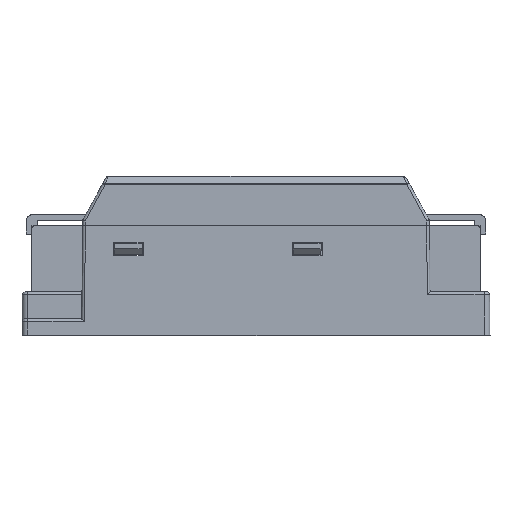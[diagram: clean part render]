
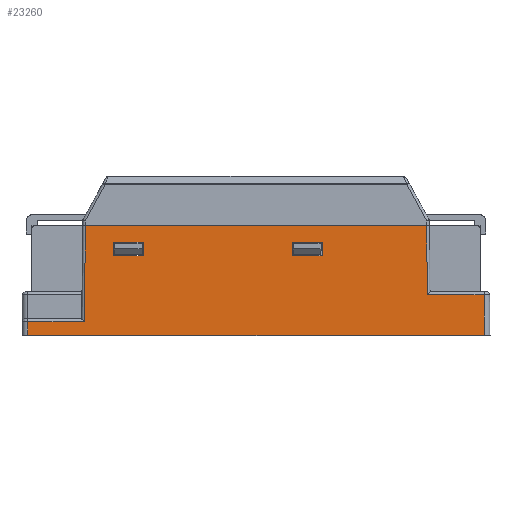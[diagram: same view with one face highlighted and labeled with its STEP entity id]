
A CAD part, top view. The second image highlights one B-rep face of the part: STEP entity #23260.
In plain terms, the highlighted planar face has unit normal (0, 0.009, 1) as drawn and (0, -1, 0.009) by its records, which use the part's own axes.
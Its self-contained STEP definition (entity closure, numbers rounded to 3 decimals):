
#16743=CARTESIAN_POINT('',(58.5,-19.676,-28.9));
#17047=DIRECTION('',(0.009,-0.009,-1.));
#17048=VECTOR('',#17047,12.497);
#17049=CARTESIAN_POINT('',(131.,-19.503,
-9.));
#17050=LINE('',#17049,#17048);
#17054=DIRECTION('',(0.009,-0.009,-1.));
#17055=VECTOR('',#17054,7.405);
#17056=CARTESIAN_POINT('',(141.435,-19.612,
-21.496));
#17057=LINE('',#17056,#17055);
#17061=DIRECTION('',(-1.,0.,0.));
#17062=VECTOR('',#17061,83.);
#17063=CARTESIAN_POINT('',(141.5,-19.676,-28.9));
#17064=LINE('',#17063,#17062);
#17068=DIRECTION('',(0.009,0.009,1.));
#17069=VECTOR('',#17068,2.505);
#17070=CARTESIAN_POINT('',(58.5,-19.676,-28.9));
#17071=LINE('',#17070,#17069);
#17075=DIRECTION('',(0.009,0.009,1.));
#17076=VECTOR('',#17075,17.397);
#17077=CARTESIAN_POINT('',(68.848,-19.654,
-26.396));
#17078=LINE('',#17077,#17076);
#17082=DIRECTION('',(1.,0.,0.));
#17083=VECTOR('',#17082,5.4);
#17084=CARTESIAN_POINT('',(74.1,-19.55,-14.4));
#17085=LINE('',#17084,#17083);
#17089=DIRECTION('',(-1.,0.,0.));
#17090=VECTOR('',#17089,5.4);
#17091=CARTESIAN_POINT('',(79.5,-19.529,-12.));
#17092=LINE('',#17091,#17090);
#17096=DIRECTION('',(-1.,0.,0.));
#17097=VECTOR('',#17096,5.4);
#17098=CARTESIAN_POINT('',(112.,-19.529,-12.));
#17099=LINE('',#17098,#17097);
#17103=DIRECTION('',(1.,0.,0.));
#17104=VECTOR('',#17103,5.4);
#17105=CARTESIAN_POINT('',(106.6,-19.55,-14.4));
#17106=LINE('',#17105,#17104);
#17163=DIRECTION('',(-1.,0.,0.));
#17164=VECTOR('',#17163,62.);
#17165=CARTESIAN_POINT('',(131.,-19.503,
-9.));
#17166=LINE('',#17165,#17164);
#17593=DIRECTION('',(-1.,0.,0.));
#17594=VECTOR('',#17593,10.326);
#17595=CARTESIAN_POINT('',(141.435,-19.612,
-21.496));
#17596=LINE('',#17595,#17594);
#19310=DIRECTION('',(0.,-0.009,-1.));
#19311=VECTOR('',#19310,2.4);
#19312=CARTESIAN_POINT('',(79.5,-19.529,-12.));
#19313=LINE('',#19312,#19311);
#19352=DIRECTION('',(0.,0.009,1.));
#19353=VECTOR('',#19352,2.4);
#19354=CARTESIAN_POINT('',(74.1,-19.55,-14.4));
#19355=LINE('',#19354,#19353);
#19494=DIRECTION('',(0.,-0.009,-1.));
#19495=VECTOR('',#19494,2.4);
#19496=CARTESIAN_POINT('',(112.,-19.529,-12.));
#19497=LINE('',#19496,#19495);
#19529=DIRECTION('',(0.,0.009,1.));
#19530=VECTOR('',#19529,2.4);
#19531=CARTESIAN_POINT('',(106.6,-19.55,-14.4));
#19532=LINE('',#19531,#19530);
#21301=DIRECTION('',(-1.,0.,0.));
#21302=VECTOR('',#21301,10.326);
#21303=CARTESIAN_POINT('',(68.848,-19.654,
-26.396));
#21304=LINE('',#21303,#21302);
#22110=VERTEX_POINT('',#16743);
#22111=CARTESIAN_POINT('',(141.5,-19.676,-28.9));
#22112=VERTEX_POINT('',#22111);
#22231=CARTESIAN_POINT('',(58.522,-19.654,
-26.396));
#22232=VERTEX_POINT('',#22231);
#22233=CARTESIAN_POINT('',(131.,-19.503,
-9.));
#22234=CARTESIAN_POINT('',(69.,-19.503,
-9.));
#22235=VERTEX_POINT('',#22233);
#22236=VERTEX_POINT('',#22234);
#22237=CARTESIAN_POINT('',(131.109,-19.612,
-21.496));
#22238=VERTEX_POINT('',#22237);
#22239=CARTESIAN_POINT('',(141.435,-19.612,
-21.496));
#22240=VERTEX_POINT('',#22239);
#22241=CARTESIAN_POINT('',(68.848,-19.654,
-26.396));
#22242=VERTEX_POINT('',#22241);
#22243=CARTESIAN_POINT('',(74.1,-19.55,-14.4));
#22244=CARTESIAN_POINT('',(74.1,-19.529,-12.));
#22245=VERTEX_POINT('',#22243);
#22246=VERTEX_POINT('',#22244);
#22247=CARTESIAN_POINT('',(79.5,-19.55,-14.4));
#22248=VERTEX_POINT('',#22247);
#22249=CARTESIAN_POINT('',(79.5,-19.529,-12.));
#22250=VERTEX_POINT('',#22249);
#22251=CARTESIAN_POINT('',(112.,-19.529,-12.));
#22252=CARTESIAN_POINT('',(106.6,-19.529,-12.));
#22253=VERTEX_POINT('',#22251);
#22254=VERTEX_POINT('',#22252);
#22255=CARTESIAN_POINT('',(106.6,-19.55,-14.4));
#22256=VERTEX_POINT('',#22255);
#22257=CARTESIAN_POINT('',(112.,-19.55,-14.4));
#22258=VERTEX_POINT('',#22257);
#23219=CARTESIAN_POINT('',(100.,-19.676,-28.897));
#23220=DIRECTION('',(0.,1.,-0.009));
#23221=DIRECTION('',(0.,0.009,1.));
#23222=AXIS2_PLACEMENT_3D('',#23219,#23220,#23221);
#23223=PLANE('',#23222);
#23225=ORIENTED_EDGE('',*,*,#23224,.F.);
#23227=ORIENTED_EDGE('',*,*,#23226,.T.);
#23229=ORIENTED_EDGE('',*,*,#23228,.F.);
#23231=ORIENTED_EDGE('',*,*,#23230,.T.);
#23232=ORIENTED_EDGE('',*,*,#23039,.T.);
#23233=ORIENTED_EDGE('',*,*,#23210,.T.);
#23235=ORIENTED_EDGE('',*,*,#23234,.F.);
#23237=ORIENTED_EDGE('',*,*,#23236,.T.);
#23238=EDGE_LOOP('',(#23225,#23227,#23229,#23231,#23232,#23233,#23235,#23237));
#23239=FACE_OUTER_BOUND('',#23238,.F.);
#23241=ORIENTED_EDGE('',*,*,#23240,.F.);
#23243=ORIENTED_EDGE('',*,*,#23242,.T.);
#23245=ORIENTED_EDGE('',*,*,#23244,.F.);
#23247=ORIENTED_EDGE('',*,*,#23246,.T.);
#23248=EDGE_LOOP('',(#23241,#23243,#23245,#23247));
#23249=FACE_BOUND('',#23248,.F.);
#23251=ORIENTED_EDGE('',*,*,#23250,.T.);
#23253=ORIENTED_EDGE('',*,*,#23252,.F.);
#23255=ORIENTED_EDGE('',*,*,#23254,.T.);
#23257=ORIENTED_EDGE('',*,*,#23256,.F.);
#23258=EDGE_LOOP('',(#23251,#23253,#23255,#23257));
#23259=FACE_BOUND('',#23258,.F.);
#23039=EDGE_CURVE('',#22112,#22110,#17064,.T.);
#23210=EDGE_CURVE('',#22110,#22232,#17071,.T.);
#23224=EDGE_CURVE('',#22235,#22236,#17166,.T.);
#23226=EDGE_CURVE('',#22235,#22238,#17050,.T.);
#23228=EDGE_CURVE('',#22240,#22238,#17596,.T.);
#23230=EDGE_CURVE('',#22240,#22112,#17057,.T.);
#23234=EDGE_CURVE('',#22242,#22232,#21304,.T.);
#23236=EDGE_CURVE('',#22242,#22236,#17078,.T.);
#23240=EDGE_CURVE('',#22245,#22246,#19355,.T.);
#23242=EDGE_CURVE('',#22245,#22248,#17085,.T.);
#23244=EDGE_CURVE('',#22250,#22248,#19313,.T.);
#23246=EDGE_CURVE('',#22250,#22246,#17092,.T.);
#23250=EDGE_CURVE('',#22253,#22254,#17099,.T.);
#23252=EDGE_CURVE('',#22256,#22254,#19532,.T.);
#23254=EDGE_CURVE('',#22256,#22258,#17106,.T.);
#23256=EDGE_CURVE('',#22253,#22258,#19497,.T.);
#23260=ADVANCED_FACE('',(#23239,#23249,#23259),#23223,.F.);
